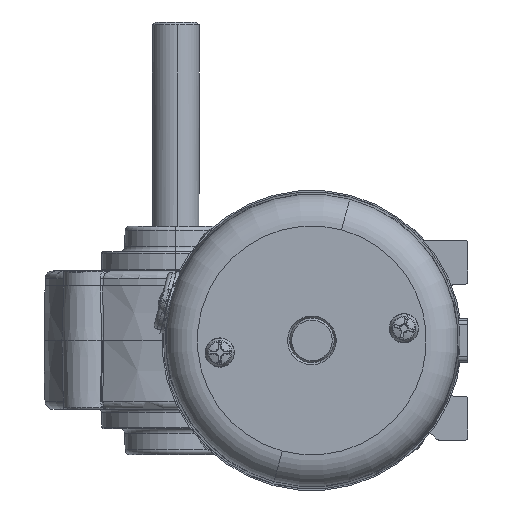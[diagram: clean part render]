
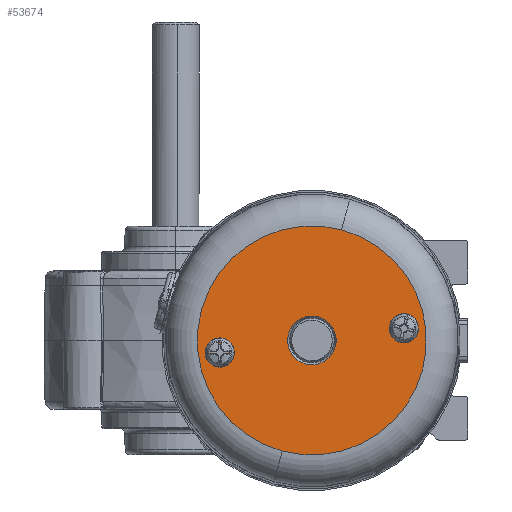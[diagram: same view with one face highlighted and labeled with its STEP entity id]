
A CAD part, left-side view. The second image highlights one B-rep face of the part: STEP entity #53674.
In plain terms, the highlighted planar face has unit normal (-1, 0, 0).
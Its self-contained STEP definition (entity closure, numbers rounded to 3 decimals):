
#138 = DIRECTION ( 'NONE',  ( 0., 0.966, 0.259 ) ) ;
#666 = CIRCLE ( 'NONE', #71125, 29.371 ) ;
#1434 = EDGE_CURVE ( 'NONE', #66472, #74235, #45003, .T. ) ;
#4297 = DIRECTION ( 'NONE',  ( 0., 0.966, 0.259 ) ) ;
#7114 = CARTESIAN_POINT ( 'NONE',  ( -31.165, 121.735, 186.162 ) ) ;
#7706 = AXIS2_PLACEMENT_3D ( 'NONE', #42429, #55780, #4297 ) ;
#11115 = CARTESIAN_POINT ( 'NONE',  ( -31.165, 124.959, 174.129 ) ) ;
#12458 = EDGE_LOOP ( 'NONE', ( #70976, #64558 ) ) ;
#15664 = EDGE_CURVE ( 'NONE', #43067, #47616, #58821, .T. ) ;
#15759 = ORIENTED_EDGE ( 'NONE', *, *, #20309, .T. ) ;
#16236 = AXIS2_PLACEMENT_3D ( 'NONE', #67773, #47456, #73834 ) ;
#16362 = DIRECTION ( 'NONE',  ( 0., 0.966, 0.259 ) ) ;
#16553 = DIRECTION ( 'NONE',  ( 0., 0.259, -0.966 ) ) ;
#16916 = DIRECTION ( 'NONE',  ( 0., 0.966, 0.259 ) ) ;
#17396 = DIRECTION ( 'NONE',  ( 1., 0., 0. ) ) ;
#19217 = FACE_BOUND ( 'NONE', #82647, .T. ) ;
#19218 = CARTESIAN_POINT ( 'NONE',  ( -31.165, 146.956, 177.037 ) ) ;
#20309 = EDGE_CURVE ( 'NONE', #72062, #45574, #50227, .T. ) ;
#20452 = EDGE_LOOP ( 'NONE', ( #67129, #30270 ) ) ;
#21592 = AXIS2_PLACEMENT_3D ( 'NONE', #77836, #72203, #57490 ) ;
#21732 = CARTESIAN_POINT ( 'NONE',  ( -31.165, 99.738, 183.254 ) ) ;
#21886 = ORIENTED_EDGE ( 'NONE', *, *, #1434, .T. ) ;
#24512 = VERTEX_POINT ( 'NONE', #29894 ) ;
#25432 = EDGE_LOOP ( 'NONE', ( #66214, #15759 ) ) ;
#28433 = CIRCLE ( 'NONE', #31192, 2.159 ) ;
#29894 = CARTESIAN_POINT ( 'NONE',  ( -31.165, 130.949, 151.775 ) ) ;
#30270 = ORIENTED_EDGE ( 'NONE', *, *, #33140, .F. ) ;
#30621 = CARTESIAN_POINT ( 'NONE',  ( -31.165, 149.041, 177.596 ) ) ;
#31192 = AXIS2_PLACEMENT_3D ( 'NONE', #19218, #45576, #138 ) ;
#31441 = CARTESIAN_POINT ( 'NONE',  ( -31.165, 146.956, 177.037 ) ) ;
#33140 = EDGE_CURVE ( 'NONE', #74123, #24512, #666, .T. ) ;
#34859 = AXIS2_PLACEMENT_3D ( 'NONE', #68482, #42943, #36473 ) ;
#36009 = CARTESIAN_POINT ( 'NONE',  ( -31.165, 97.653, 182.695 ) ) ;
#36040 = EDGE_CURVE ( 'NONE', #47616, #43067, #46516, .T. ) ;
#36473 = DIRECTION ( 'NONE',  ( 0., 0.966, 0.259 ) ) ;
#39560 = FACE_BOUND ( 'NONE', #12458, .T. ) ;
#39927 = CARTESIAN_POINT ( 'NONE',  ( -31.165, 101.824, 183.812 ) ) ;
#42429 = CARTESIAN_POINT ( 'NONE',  ( -31.165, 123.347, 180.146 ) ) ;
#42729 = DIRECTION ( 'NONE',  ( 1., 0., 0. ) ) ;
#42943 = DIRECTION ( 'NONE',  ( -1., 0., 0. ) ) ;
#43067 = VERTEX_POINT ( 'NONE', #36009 ) ;
#43814 = CIRCLE ( 'NONE', #16236, 6.228 ) ;
#44355 = CARTESIAN_POINT ( 'NONE',  ( -31.165, 115.745, 208.516 ) ) ;
#45003 = CIRCLE ( 'NONE', #7706, 6.228 ) ;
#45574 = VERTEX_POINT ( 'NONE', #30621 ) ;
#45575 = PLANE ( 'NONE',  #34859 ) ;
#45576 = DIRECTION ( 'NONE',  ( 1., 0., 0. ) ) ;
#46516 = CIRCLE ( 'NONE', #49318, 2.159 ) ;
#47456 = DIRECTION ( 'NONE',  ( 1., 0., 0. ) ) ;
#47616 = VERTEX_POINT ( 'NONE', #39927 ) ;
#48514 = DIRECTION ( 'NONE',  ( 0., 0.259, -0.966 ) ) ;
#48712 = CARTESIAN_POINT ( 'NONE',  ( -31.165, 144.87, 176.479 ) ) ;
#49318 = AXIS2_PLACEMENT_3D ( 'NONE', #21732, #68842, #16916 ) ;
#49363 = CARTESIAN_POINT ( 'NONE',  ( -31.165, 123.347, 180.146 ) ) ;
#50227 = CIRCLE ( 'NONE', #66838, 2.159 ) ;
#51087 = EDGE_CURVE ( 'NONE', #45574, #72062, #28433, .T. ) ;
#52067 = FACE_BOUND ( 'NONE', #25432, .T. ) ;
#53399 = ORIENTED_EDGE ( 'NONE', *, *, #72843, .T. ) ;
#53674 = ADVANCED_FACE ( 'NONE', ( #39560, #52067, #78480, #19217 ), #45575, .T. ) ;
#55780 = DIRECTION ( 'NONE',  ( 1., 0., 0. ) ) ;
#57490 = DIRECTION ( 'NONE',  ( 0., 0.966, 0.259 ) ) ;
#57567 = CARTESIAN_POINT ( 'NONE',  ( -31.165, 123.347, 180.146 ) ) ;
#58821 = CIRCLE ( 'NONE', #21592, 2.159 ) ;
#61360 = CIRCLE ( 'NONE', #72437, 29.371 ) ;
#64558 = ORIENTED_EDGE ( 'NONE', *, *, #15664, .T. ) ;
#66214 = ORIENTED_EDGE ( 'NONE', *, *, #51087, .T. ) ;
#66472 = VERTEX_POINT ( 'NONE', #11115 ) ;
#66838 = AXIS2_PLACEMENT_3D ( 'NONE', #31441, #42729, #16362 ) ;
#67129 = ORIENTED_EDGE ( 'NONE', *, *, #83277, .F. ) ;
#67773 = CARTESIAN_POINT ( 'NONE',  ( -31.165, 123.347, 180.146 ) ) ;
#68482 = CARTESIAN_POINT ( 'NONE',  ( -31.165, 127.954, 162.952 ) ) ;
#68842 = DIRECTION ( 'NONE',  ( 1., 0., 0. ) ) ;
#70976 = ORIENTED_EDGE ( 'NONE', *, *, #36040, .T. ) ;
#71125 = AXIS2_PLACEMENT_3D ( 'NONE', #49363, #83121, #48514 ) ;
#72062 = VERTEX_POINT ( 'NONE', #48712 ) ;
#72203 = DIRECTION ( 'NONE',  ( 1., 0., 0. ) ) ;
#72437 = AXIS2_PLACEMENT_3D ( 'NONE', #57567, #17396, #16553 ) ;
#72843 = EDGE_CURVE ( 'NONE', #74235, #66472, #43814, .T. ) ;
#73834 = DIRECTION ( 'NONE',  ( 0., 0.966, 0.259 ) ) ;
#74123 = VERTEX_POINT ( 'NONE', #44355 ) ;
#74235 = VERTEX_POINT ( 'NONE', #7114 ) ;
#77836 = CARTESIAN_POINT ( 'NONE',  ( -31.165, 99.738, 183.254 ) ) ;
#78480 = FACE_OUTER_BOUND ( 'NONE', #20452, .T. ) ;
#82647 = EDGE_LOOP ( 'NONE', ( #21886, #53399 ) ) ;
#83121 = DIRECTION ( 'NONE',  ( 1., 0., 0. ) ) ;
#83277 = EDGE_CURVE ( 'NONE', #24512, #74123, #61360, .T. ) ;
